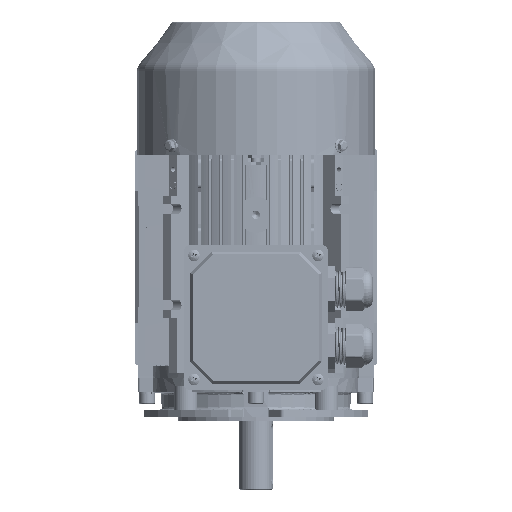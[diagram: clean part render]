
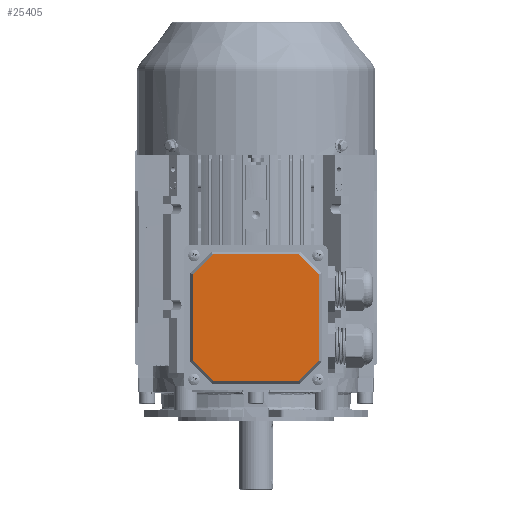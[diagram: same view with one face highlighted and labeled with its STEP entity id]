
A CAD part, top view. The second image highlights one B-rep face of the part: STEP entity #25405.
In plain terms, the highlighted planar face has unit normal (0, 0, 1) as drawn and (0, 0, -1) by its records, which use the part's own axes.
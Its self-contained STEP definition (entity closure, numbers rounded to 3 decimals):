
#273 = CARTESIAN_POINT ( 'NONE',  ( -52.536, 35.903, -4. ) ) ;
#404 = ORIENTED_EDGE ( 'NONE', *, *, #41104, .F. ) ;
#1384 = DIRECTION ( 'NONE',  ( 1., 0., 0. ) ) ;
#5378 = VERTEX_POINT ( 'NONE', #33490 ) ;
#7894 = EDGE_CURVE ( 'NONE', #104946, #53896, #16153, .T. ) ;
#8836 = LINE ( 'NONE', #135291, #15370 ) ;
#9776 = DIRECTION ( 'NONE',  ( 0.707, -0.707, 0. ) ) ;
#12638 = DIRECTION ( 'NONE',  ( -1., 0., 0. ) ) ;
#13077 = CARTESIAN_POINT ( 'NONE',  ( 52.536, 35.903, -4. ) ) ;
#15370 = VECTOR ( 'NONE', #9776, 1000. ) ;
#15959 = LINE ( 'NONE', #45754, #43948 ) ;
#16153 = LINE ( 'NONE', #21288, #65300 ) ;
#16807 = VECTOR ( 'NONE', #133507, 1000. ) ;
#17751 = CARTESIAN_POINT ( 'NONE',  ( 44.22, 44.22, -4. ) ) ;
#20935 = LINE ( 'NONE', #32576, #129162 ) ;
#21288 = CARTESIAN_POINT ( 'NONE',  ( -52.536, 0., -4. ) ) ;
#23517 = EDGE_CURVE ( 'NONE', #53896, #99840, #8836, .T. ) ;
#25405 = ADVANCED_FACE ( 'NONE', ( #92279 ), #73167, .F. ) ;
#31514 = DIRECTION ( 'NONE',  ( 0., 0., 1. ) ) ;
#32576 = CARTESIAN_POINT ( 'NONE',  ( 0., -52.536, -4. ) ) ;
#33490 = CARTESIAN_POINT ( 'NONE',  ( 35.903, -52.536, -4. ) ) ;
#34329 = VERTEX_POINT ( 'NONE', #82059 ) ;
#35165 = VERTEX_POINT ( 'NONE', #13077 ) ;
#40761 = EDGE_CURVE ( 'NONE', #126931, #34329, #105523, .T. ) ;
#41104 = EDGE_CURVE ( 'NONE', #5378, #122628, #79145, .T. ) ;
#43948 = VECTOR ( 'NONE', #98033, 1000. ) ;
#45161 = CARTESIAN_POINT ( 'NONE',  ( -52.536, -35.903, -4. ) ) ;
#45754 = CARTESIAN_POINT ( 'NONE',  ( 52.536, 0., -4. ) ) ;
#49411 = DIRECTION ( 'NONE',  ( -0.707, 0.707, 0. ) ) ;
#50540 = ORIENTED_EDGE ( 'NONE', *, *, #68148, .F. ) ;
#53896 = VERTEX_POINT ( 'NONE', #45161 ) ;
#58799 = EDGE_LOOP ( 'NONE', ( #94165, #404, #71177, #128780, #66214, #50540, #84058, #111427 ) ) ;
#65300 = VECTOR ( 'NONE', #84082, 1000. ) ;
#65727 = EDGE_CURVE ( 'NONE', #99840, #5378, #20935, .T. ) ;
#66200 = CARTESIAN_POINT ( 'NONE',  ( -35.903, -52.536, -4. ) ) ;
#66214 = ORIENTED_EDGE ( 'NONE', *, *, #7894, .F. ) ;
#68148 = EDGE_CURVE ( 'NONE', #34329, #104946, #71173, .T. ) ;
#71173 = LINE ( 'NONE', #81329, #123620 ) ;
#71177 = ORIENTED_EDGE ( 'NONE', *, *, #65727, .F. ) ;
#73167 = PLANE ( 'NONE',  #126714 ) ;
#76243 = VECTOR ( 'NONE', #49411, 1000. ) ;
#76317 = CARTESIAN_POINT ( 'NONE',  ( 35.903, 52.536, -4. ) ) ;
#79145 = LINE ( 'NONE', #91436, #16807 ) ;
#81329 = CARTESIAN_POINT ( 'NONE',  ( -44.22, 44.22, -4. ) ) ;
#82059 = CARTESIAN_POINT ( 'NONE',  ( -35.903, 52.536, -4. ) ) ;
#84058 = ORIENTED_EDGE ( 'NONE', *, *, #40761, .F. ) ;
#84082 = DIRECTION ( 'NONE',  ( 0., -1., 0. ) ) ;
#85990 = CARTESIAN_POINT ( 'NONE',  ( 0., 52.536, -4. ) ) ;
#91436 = CARTESIAN_POINT ( 'NONE',  ( 44.22, -44.22, -4. ) ) ;
#92279 = FACE_OUTER_BOUND ( 'NONE', #58799, .T. ) ;
#94165 = ORIENTED_EDGE ( 'NONE', *, *, #124298, .F. ) ;
#98033 = DIRECTION ( 'NONE',  ( 0., 1., 0. ) ) ;
#99840 = VERTEX_POINT ( 'NONE', #66200 ) ;
#104136 = LINE ( 'NONE', #17751, #76243 ) ;
#104828 = DIRECTION ( 'NONE',  ( 1., 0., 0. ) ) ;
#104946 = VERTEX_POINT ( 'NONE', #273 ) ;
#105523 = LINE ( 'NONE', #85990, #130045 ) ;
#110778 = EDGE_CURVE ( 'NONE', #35165, #126931, #104136, .T. ) ;
#111427 = ORIENTED_EDGE ( 'NONE', *, *, #110778, .F. ) ;
#115581 = CARTESIAN_POINT ( 'NONE',  ( 52.536, -35.903, -4. ) ) ;
#122628 = VERTEX_POINT ( 'NONE', #115581 ) ;
#123444 = DIRECTION ( 'NONE',  ( -0.707, -0.707, 0. ) ) ;
#123620 = VECTOR ( 'NONE', #123444, 1000. ) ;
#124298 = EDGE_CURVE ( 'NONE', #122628, #35165, #15959, .T. ) ;
#125392 = CARTESIAN_POINT ( 'NONE',  ( 0., 0., -4. ) ) ;
#126714 = AXIS2_PLACEMENT_3D ( 'NONE', #125392, #31514, #104828 ) ;
#126931 = VERTEX_POINT ( 'NONE', #76317 ) ;
#128780 = ORIENTED_EDGE ( 'NONE', *, *, #23517, .F. ) ;
#129162 = VECTOR ( 'NONE', #1384, 1000. ) ;
#130045 = VECTOR ( 'NONE', #12638, 1000. ) ;
#133507 = DIRECTION ( 'NONE',  ( 0.707, 0.707, 0. ) ) ;
#135291 = CARTESIAN_POINT ( 'NONE',  ( -44.22, -44.22, -4. ) ) ;
